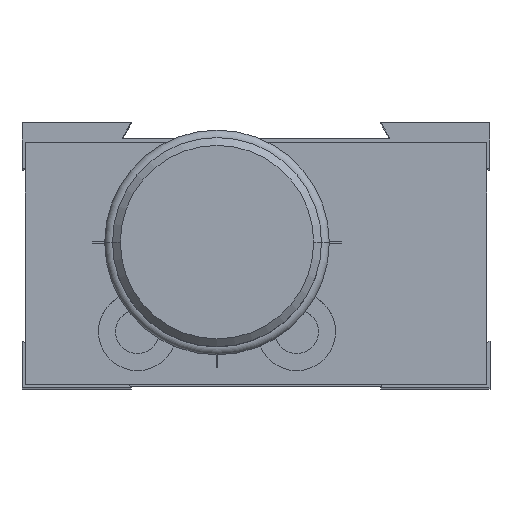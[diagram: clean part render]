
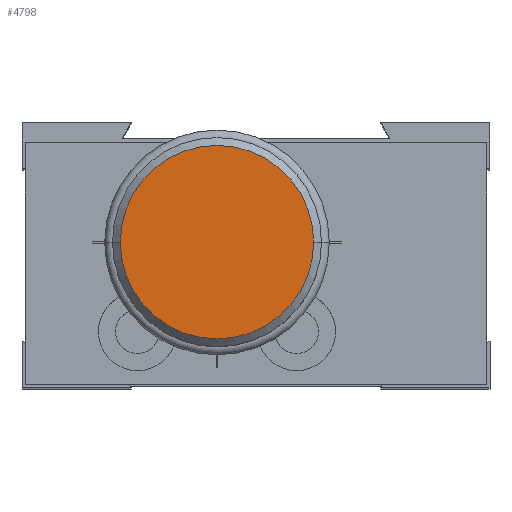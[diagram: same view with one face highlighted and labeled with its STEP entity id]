
A CAD part, top view. The second image highlights one B-rep face of the part: STEP entity #4798.
In plain terms, the highlighted planar face has unit normal (0, 0, 1).
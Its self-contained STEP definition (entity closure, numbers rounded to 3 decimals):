
#507 = ORIENTED_EDGE ( 'NONE', *, *, #918, .T. ) ;
#831 = VERTEX_POINT ( 'NONE', #3323 ) ;
#878 = VERTEX_POINT ( 'NONE', #3475 ) ;
#918 = EDGE_CURVE ( 'NONE', #878, #831, #3578, .T. ) ;
#2349 = FACE_OUTER_BOUND ( 'NONE', #4773, .T. ) ;
#2350 = PLANE ( 'NONE',  #2351 ) ;
#2351 = AXIS2_PLACEMENT_3D ( 'NONE', #2352, #2353, #2354 ) ;
#2352 = CARTESIAN_POINT ( 'NONE',  ( -2.5, 9.3, 51. ) ) ;
#2353 = DIRECTION ( 'NONE',  ( 0., 0., 1. ) ) ;
#2354 = DIRECTION ( 'NONE',  ( 1., 0., 0. ) ) ;
#3323 = CARTESIAN_POINT ( 'NONE',  ( -8.7, 9.3, 51. ) ) ;
#3475 = CARTESIAN_POINT ( 'NONE',  ( 3.7, 9.3, 51. ) ) ;
#3578 = CIRCLE ( 'NONE', #3579, 6.2 ) ;
#3579 = AXIS2_PLACEMENT_3D ( 'NONE', #3580, #3581, #3582 ) ;
#3580 = CARTESIAN_POINT ( 'NONE',  ( -2.5, 9.3, 51. ) ) ;
#3581 = DIRECTION ( 'NONE',  ( 0., 0., 1. ) ) ;
#3582 = DIRECTION ( 'NONE',  ( 1., 0., 0. ) ) ;
#4047 = EDGE_CURVE ( 'NONE', #831, #878, #4290, .T. ) ;
#4290 = CIRCLE ( 'NONE', #4291, 6.2 ) ;
#4291 = AXIS2_PLACEMENT_3D ( 'NONE', #4292, #4293, #4294 ) ;
#4292 = CARTESIAN_POINT ( 'NONE',  ( -2.5, 9.3, 51. ) ) ;
#4293 = DIRECTION ( 'NONE',  ( 0., 0., 1. ) ) ;
#4294 = DIRECTION ( 'NONE',  ( 1., 0., 0. ) ) ;
#4392 = ORIENTED_EDGE ( 'NONE', *, *, #4047, .T. ) ;
#4773 = EDGE_LOOP ( 'NONE', ( #4392, #507 ) ) ;
#4798 = ADVANCED_FACE ( 'NONE', ( #2349 ), #2350, .T. ) ;
